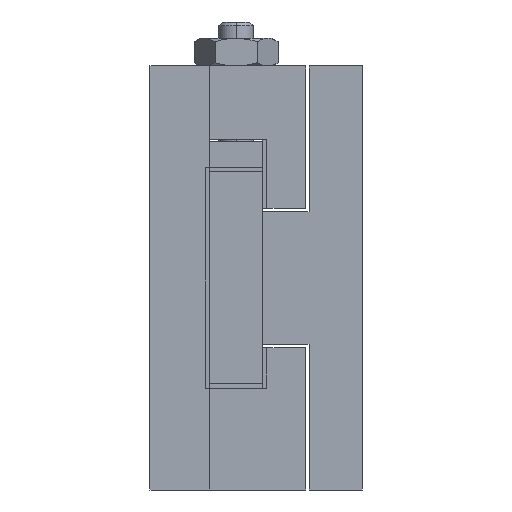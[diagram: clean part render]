
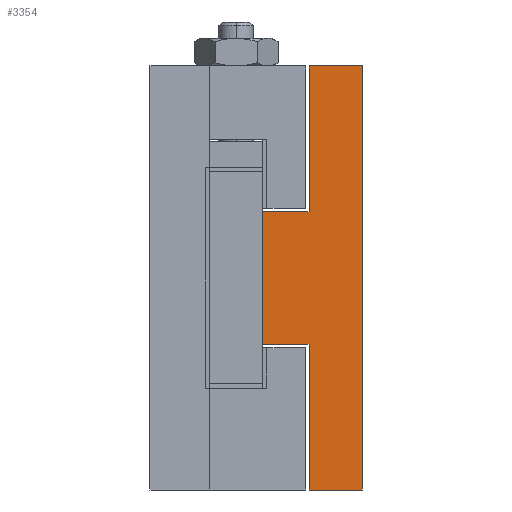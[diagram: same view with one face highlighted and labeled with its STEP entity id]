
A CAD part, left-side view. The second image highlights one B-rep face of the part: STEP entity #3354.
In plain terms, the highlighted planar face has unit normal (-1, 0, 0).
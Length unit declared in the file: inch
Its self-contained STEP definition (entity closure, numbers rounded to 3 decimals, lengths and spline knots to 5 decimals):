
#3347 = ORIENTED_EDGE ( 'NONE', *, *, #3419, .F. ) ;
#3348 = VERTEX_POINT ( 'NONE', #5139 ) ;
#3349 = VERTEX_POINT ( 'NONE', #5191 ) ;
#3351 = EDGE_LOOP ( 'NONE', ( #3376, #3391, #3418, #3347, #3378, #3456, #3380, #3475 ) ) ;
#3352 = EDGE_CURVE ( 'NONE', #3491, #3353, #4972, .T. ) ;
#3353 = VERTEX_POINT ( 'NONE', #5325 ) ;
#3354 = ADVANCED_FACE ( 'NONE', ( #5324 ), #5319, .F. ) ;
#3355 = VERTEX_POINT ( 'NONE', #5314 ) ;
#3376 = ORIENTED_EDGE ( 'NONE', *, *, #3352, .T. ) ;
#3377 = EDGE_CURVE ( 'NONE', #3349, #3489, #5318, .T. ) ;
#3378 = ORIENTED_EDGE ( 'NONE', *, *, #3412, .F. ) ;
#3380 = ORIENTED_EDGE ( 'NONE', *, *, #3377, .T. ) ;
#3381 = VERTEX_POINT ( 'NONE', #5367 ) ;
#3391 = ORIENTED_EDGE ( 'NONE', *, *, #3470, .T. ) ;
#3412 = EDGE_CURVE ( 'NONE', #3426, #3381, #5300, .T. ) ;
#3418 = ORIENTED_EDGE ( 'NONE', *, *, #3440, .F. ) ;
#3419 = EDGE_CURVE ( 'NONE', #3381, #3348, #4962, .T. ) ;
#3426 = VERTEX_POINT ( 'NONE', #5458 ) ;
#3432 = EDGE_CURVE ( 'NONE', #3491, #3489, #5377, .T. ) ;
#3440 = EDGE_CURVE ( 'NONE', #3348, #3355, #5438, .T. ) ;
#3456 = ORIENTED_EDGE ( 'NONE', *, *, #3474, .T. ) ;
#3470 = EDGE_CURVE ( 'NONE', #3353, #3355, #5526, .T. ) ;
#3474 = EDGE_CURVE ( 'NONE', #3426, #3349, #5546, .T. ) ;
#3475 = ORIENTED_EDGE ( 'NONE', *, *, #3432, .F. ) ;
#3489 = VERTEX_POINT ( 'NONE', #5517 ) ;
#3491 = VERTEX_POINT ( 'NONE', #5536 ) ;
#4943 = DIRECTION ( 'NONE',  ( 0., -1., 0. ) ) ;
#4944 = VECTOR ( 'NONE', #4943, 39.37008 ) ;
#4961 = CARTESIAN_POINT ( 'NONE',  ( 0., 0.46875, -0.3125 ) ) ;
#4962 = LINE ( 'NONE', #5085, #5149 ) ;
#4972 = LINE ( 'NONE', #4961, #5008 ) ;
#4998 = DIRECTION ( 'NONE',  ( 0., -1., 0. ) ) ;
#5008 = VECTOR ( 'NONE', #4998, 39.37008 ) ;
#5085 = CARTESIAN_POINT ( 'NONE',  ( 0., 0., 1. ) ) ;
#5139 = CARTESIAN_POINT ( 'NONE',  ( 0., 0., -1. ) ) ;
#5149 = VECTOR ( 'NONE', #5185, 39.37008 ) ;
#5185 = DIRECTION ( 'NONE',  ( 0., 0., -1. ) ) ;
#5191 = CARTESIAN_POINT ( 'NONE',  ( 0., 0.25, 0.3125 ) ) ;
#5299 = CARTESIAN_POINT ( 'NONE',  ( 0., 0.46875, 1. ) ) ;
#5300 = LINE ( 'NONE', #5299, #4944 ) ;
#5301 = DIRECTION ( 'NONE',  ( 0., 1., 0. ) ) ;
#5302 = VECTOR ( 'NONE', #5301, 39.37008 ) ;
#5306 = AXIS2_PLACEMENT_3D ( 'NONE', #5312, #5315, #5310 ) ;
#5310 = DIRECTION ( 'NONE',  ( 0., 0., -1. ) ) ;
#5312 = CARTESIAN_POINT ( 'NONE',  ( 0., 0., 1. ) ) ;
#5314 = CARTESIAN_POINT ( 'NONE',  ( 0., 0.25, -1. ) ) ;
#5315 = DIRECTION ( 'NONE',  ( 1., 0., 0. ) ) ;
#5317 = CARTESIAN_POINT ( 'NONE',  ( 0., 0.46875, 0.3125 ) ) ;
#5318 = LINE ( 'NONE', #5317, #5302 ) ;
#5319 = PLANE ( 'NONE',  #5306 ) ;
#5324 = FACE_OUTER_BOUND ( 'NONE', #3351, .T. ) ;
#5325 = CARTESIAN_POINT ( 'NONE',  ( 0., 0.25, -0.3125 ) ) ;
#5367 = CARTESIAN_POINT ( 'NONE',  ( 0., 0., 1. ) ) ;
#5376 = CARTESIAN_POINT ( 'NONE',  ( 0., 0.46875, 1. ) ) ;
#5377 = LINE ( 'NONE', #5376, #5465 ) ;
#5436 = DIRECTION ( 'NONE',  ( 0., 1., 0. ) ) ;
#5437 = CARTESIAN_POINT ( 'NONE',  ( 0., 0.46875, -1. ) ) ;
#5438 = LINE ( 'NONE', #5437, #5452 ) ;
#5452 = VECTOR ( 'NONE', #5436, 39.37008 ) ;
#5458 = CARTESIAN_POINT ( 'NONE',  ( 0., 0.25, 1. ) ) ;
#5464 = DIRECTION ( 'NONE',  ( 0., 0., 1. ) ) ;
#5465 = VECTOR ( 'NONE', #5464, 39.37008 ) ;
#5496 = DIRECTION ( 'NONE',  ( 0., 0., -1. ) ) ;
#5512 = VECTOR ( 'NONE', #5496, 39.37008 ) ;
#5513 = CARTESIAN_POINT ( 'NONE',  ( 0., 0.25, -1. ) ) ;
#5517 = CARTESIAN_POINT ( 'NONE',  ( 0., 0.46875, 0.3125 ) ) ;
#5526 = LINE ( 'NONE', #5513, #5512 ) ;
#5536 = CARTESIAN_POINT ( 'NONE',  ( 0., 0.46875, -0.3125 ) ) ;
#5542 = DIRECTION ( 'NONE',  ( 0., 0., -1. ) ) ;
#5543 = CARTESIAN_POINT ( 'NONE',  ( 0., 0.25, 1. ) ) ;
#5546 = LINE ( 'NONE', #5543, #5559 ) ;
#5559 = VECTOR ( 'NONE', #5542, 39.37008 ) ;
